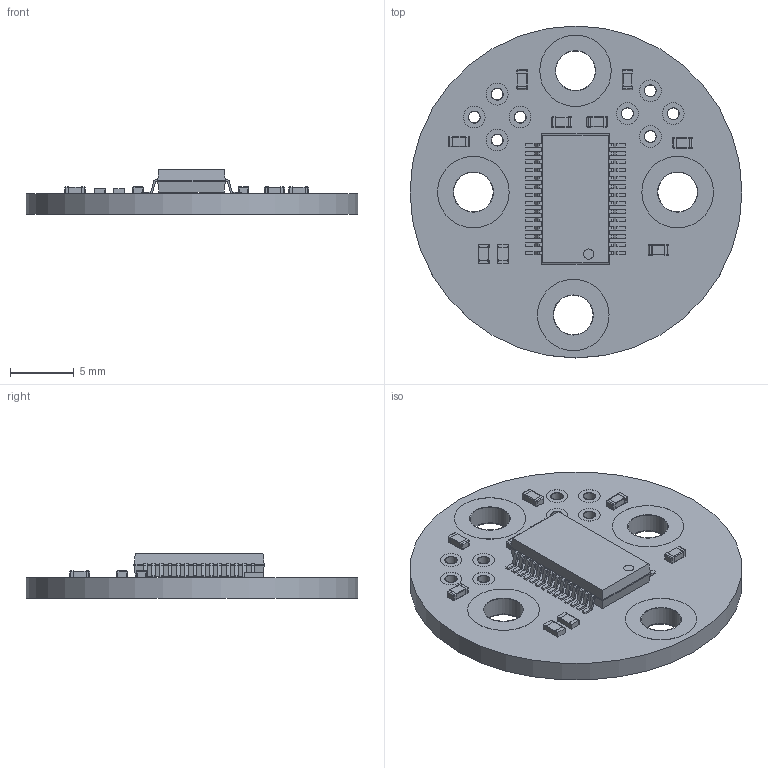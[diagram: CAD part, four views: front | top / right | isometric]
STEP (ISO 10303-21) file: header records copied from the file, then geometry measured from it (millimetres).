
FILE_DESCRIPTION(/* description */ (''),/* implementation_level */ '2;1');
FILE_NAME(/* name */ 'ENC_AM4096PT v0.step',/* time_stamp */ '2022-12-09T13:19:22+04:00',/* author */ (''),/* organization */ (''),/* preprocessor_version */ 'ST-DEVELOPER v19.2',/* originating_system */ 'Autodesk Translation Framework v11.17.0.187',/* authorisation */ '');
FILE_SCHEMA (('AUTOMOTIVE_DESIGN { 1 0 10303 214 3 1 1 }'));
Length unit declared in the file: millimetre
Products named in the file (18): ENC_AM4096PT; Board; U1; SSOP-28-3; User_Library-SSOP-28-3__X2_041A043E0440043F04430441_X0_; User_Library-SSOP-28-3__X2_041C04350442043A0430_X0_; User_Library-SSOP-28-3__X2_041D043E0436043A0430_X0_; R2; R1; Resistors_0603; C7; C6; C5; C4; C3; C2; C1; CAPC1608X___
Assembly tree (37 placements, depth 4):
  ENC_AM4096PT
    Board
    U1
      SSOP-28-3
        User_Library-SSOP-28-3__X2_041A043E0440043F04430441_X0_
        User_Library-SSOP-28-3__X2_041C04350442043A0430_X0_
        User_Library-SSOP-28-3__X2_041D043E0436043A0430_X0_  x14
    R2
      Resistors_0603
    R1
      Resistors_0603
    C7
      CAPC1608X___
    C6
      CAPC1608X___
    C5
      CAPC1608X___
    C4
      CAPC1608X___
    C3
      CAPC1608X___
    C2
      CAPC1608X___
    C1
      CAPC1608X___
Bounding box: 26 x 26 x 3.49 mm (x, y, z)
Volume: 889.5 mm3; surface area: 2017 mm2
Topology: 66 solids, 66 shells, 1216 faces, 2785 edges, 1694 vertices
Faces by surface type: plane 617, cylinder 463, torus 56, bspline 56, cone 24
Full cylindrical faces by diameter (mm): 0.795 x2, 0.9 x8, 1 x16, 1.7 x32, 3.1 x4, 3.2 x8, 5.6 x16, 26 x1
Entity records: 11007 total; most frequent: CARTESIAN_POINT 1982, DIRECTION 1921, ORIENTED_EDGE 1562, EDGE_CURVE 781, AXIS2_PLACEMENT_3D 733, VERTEX_POINT 486, EDGE_LOOP 483, LINE 455
